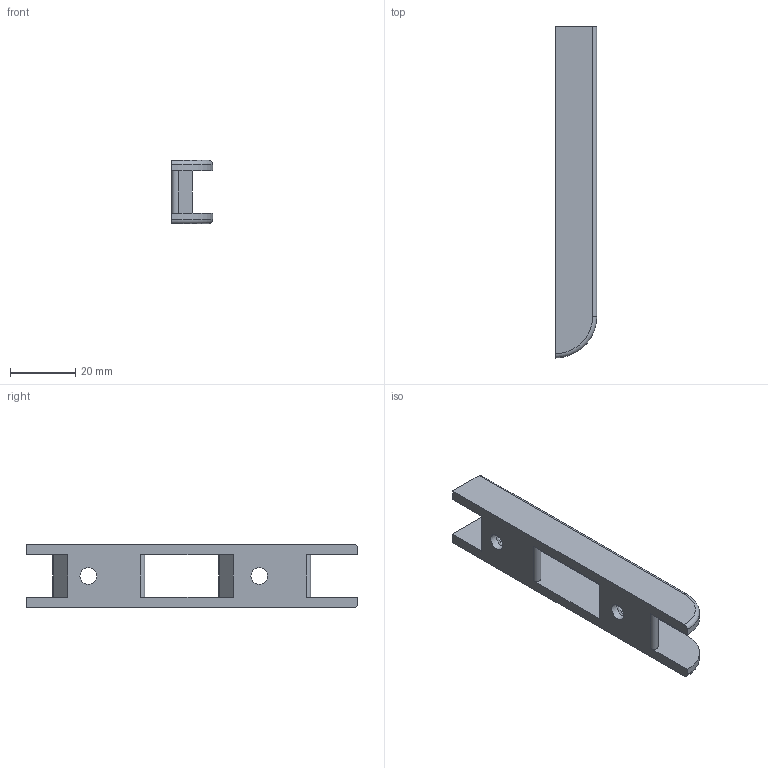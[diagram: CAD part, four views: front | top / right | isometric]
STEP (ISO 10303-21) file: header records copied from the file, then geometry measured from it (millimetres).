
FILE_DESCRIPTION(/* description */ ('STEP AP242','CAx-IF Rec.Pracs.---Representation and Presentation of Product Manufacturing Information (PMI)---4.0---2014-10-13','CAx-IF Rec.Pracs.---3D Tessellated Geometry---0.4---2014-09-14','2;1'),/* implementation_level */ '2;1');
FILE_NAME(/* name */ '677d7ac7b77be45bfcd6ca60',/* time_stamp */ '2025-01-07T19:04:40Z',/* author */ (''),/* organization */ (''),/* preprocessor_version */ 'ST-DEVELOPER v20',/* originating_system */ 'ONSHAPE BY PTC INC, 1.191',/* authorisation */ ' ');
FILE_SCHEMA (('AP242_MANAGED_MODEL_BASED_3D_ENGINEERING_MIM_LF { 1 0 10303 442 1 1 4 }'));
Length unit declared in the file: metre
Products named in the file (1): Wall Bracket-4
Bounding box: 12.7 x 101.6 x 19.37 mm (x, y, z)
Volume: 11261.5 mm3; surface area: 7483.8 mm2
Topology: 1 solids, 1 shells, 33 faces, 88 edges, 58 vertices
Faces by surface type: plane 17, cylinder 12, torus 2, cone 2
Full cylindrical faces by diameter (mm): 5.08 x2, 12.7 x2
Entity records: 1022 total; most frequent: DIRECTION 178, CARTESIAN_POINT 170, ORIENTED_EDGE 160, EDGE_CURVE 80, AXIS2_PLACEMENT_3D 64, VERTEX_POINT 56, LINE 50, VECTOR 50
